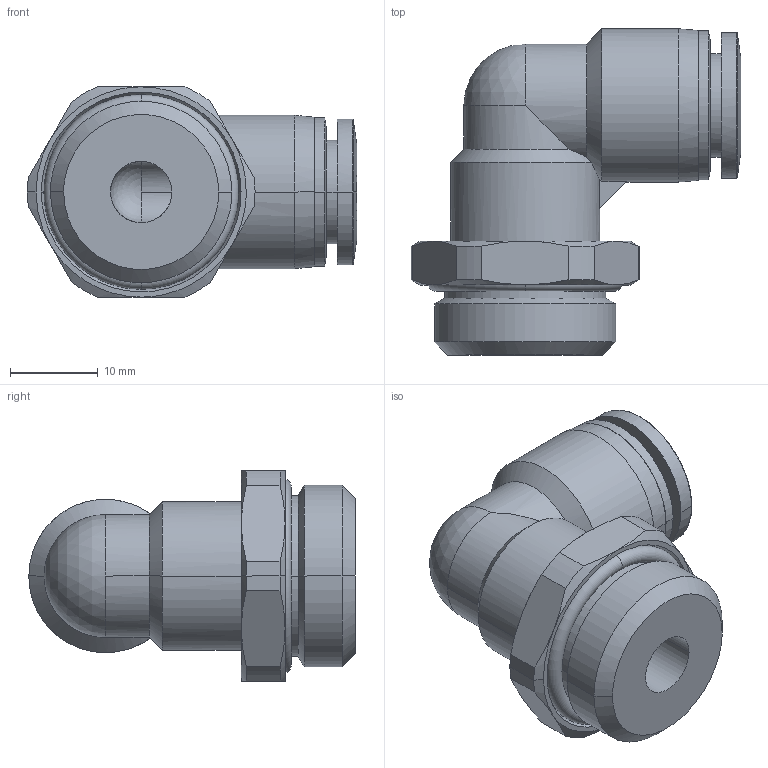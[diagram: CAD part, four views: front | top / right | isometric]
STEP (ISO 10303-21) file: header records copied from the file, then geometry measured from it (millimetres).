
FILE_DESCRIPTION (( 'STEP AP203' ), '1' );
FILE_NAME ('FL10-04.STEP', '2020-05-06T15:04:22', ( '' ), ( '' ), 'SwSTEP 2.0', 'SolidWorks 2019', '' );
FILE_SCHEMA (( 'CONFIG_CONTROL_DESIGN' ));
Length unit declared in the file: millimetre
Products named in the file (1): FL10-04
Bounding box: 37.6 x 37.25 x 24 mm (x, y, z)
Surface area: 5878.4 mm2 (no closed solid volume)
Topology: 0 solids, 4 shells, 92 faces, 223 edges, 139 vertices
Faces by surface type: cylinder 33, cone 30, plane 19, torus 6, bspline 2, sphere 2
Entity records: 4561 total; most frequent: CARTESIAN_POINT 2717, ORIENTED_EDGE 426, DIRECTION 235, EDGE_CURVE 221, B_SPLINE_CURVE_WITH_KNOTS 168, VERTEX_POINT 139, EDGE_LOOP 102, AXIS2_PLACEMENT_3D 97
